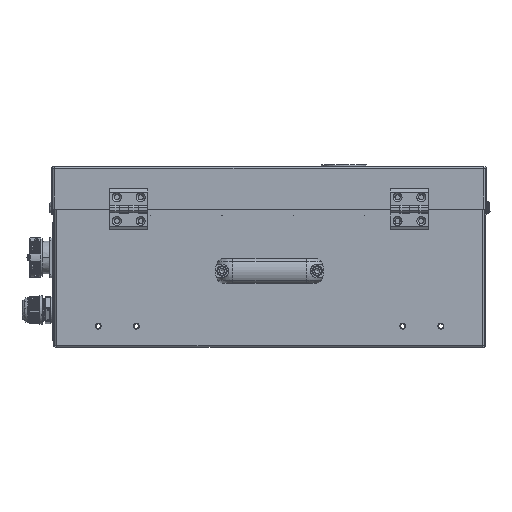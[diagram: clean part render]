
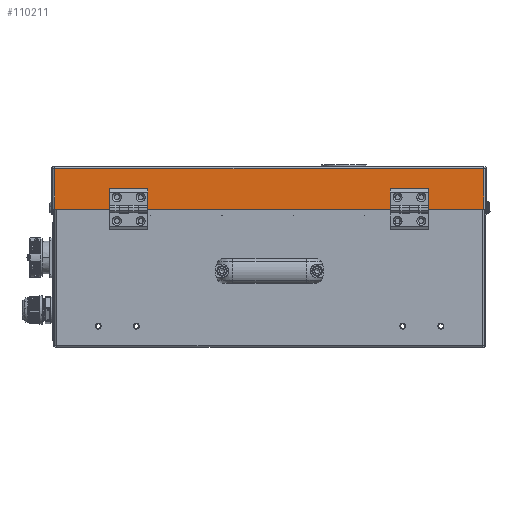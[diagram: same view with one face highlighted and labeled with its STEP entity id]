
A CAD part, front view. The second image highlights one B-rep face of the part: STEP entity #110211.
In plain terms, the highlighted planar face has unit normal (0, -1, 0) as drawn and (0, 1, 0) by its records, which use the part's own axes.
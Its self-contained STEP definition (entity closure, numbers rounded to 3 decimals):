
#1494 = CIRCLE ( 'NONE', #58247, 2.65 ) ;
#1501 = DIRECTION ( 'NONE',  ( 0., 0., -1. ) ) ;
#2211 = DIRECTION ( 'NONE',  ( 0., 0., 1. ) ) ;
#2305 = CARTESIAN_POINT ( 'NONE',  ( -135., 85., 33.15 ) ) ;
#3350 = ORIENTED_EDGE ( 'NONE', *, *, #131735, .F. ) ;
#7655 = EDGE_CURVE ( 'NONE', #125678, #28496, #146046, .T. ) ;
#7772 = EDGE_CURVE ( 'NONE', #28671, #140823, #19745, .T. ) ;
#9221 = PLANE ( 'NONE',  #85877 ) ;
#9626 = CARTESIAN_POINT ( 'NONE',  ( 160., 85., 30.5 ) ) ;
#9893 = VECTOR ( 'NONE', #61558, 1000. ) ;
#11166 = CIRCLE ( 'NONE', #65452, 2.65 ) ;
#13204 = DIRECTION ( 'NONE',  ( 0., 0., 1. ) ) ;
#14415 = CARTESIAN_POINT ( 'NONE',  ( 225.4, 85., 43. ) ) ;
#14683 = ORIENTED_EDGE ( 'NONE', *, *, #132298, .F. ) ;
#18172 = CARTESIAN_POINT ( 'NONE',  ( 225.4, 85., 43. ) ) ;
#19745 = LINE ( 'NONE', #41417, #47376 ) ;
#22292 = EDGE_CURVE ( 'NONE', #143634, #121549, #11166, .T. ) ;
#24768 = DIRECTION ( 'NONE',  ( 0., 1., 0. ) ) ;
#27368 = DIRECTION ( 'NONE',  ( 0., 1., 0. ) ) ;
#28496 = VERTEX_POINT ( 'NONE', #42690 ) ;
#28671 = VERTEX_POINT ( 'NONE', #98903 ) ;
#30067 = LINE ( 'NONE', #148256, #43205 ) ;
#30552 = CARTESIAN_POINT ( 'NONE',  ( -135., 85., 30.5 ) ) ;
#31450 = EDGE_LOOP ( 'NONE', ( #70566, #14683 ) ) ;
#34674 = LINE ( 'NONE', #117325, #67298 ) ;
#35034 = AXIS2_PLACEMENT_3D ( 'NONE', #30552, #147971, #54493 ) ;
#36060 = DIRECTION ( 'NONE',  ( 0., 0., 1. ) ) ;
#38370 = ORIENTED_EDGE ( 'NONE', *, *, #80728, .T. ) ;
#38982 = CARTESIAN_POINT ( 'NONE',  ( 135., 85., 30.5 ) ) ;
#41127 = ORIENTED_EDGE ( 'NONE', *, *, #104520, .F. ) ;
#41417 = CARTESIAN_POINT ( 'NONE',  ( 225.4, 85., 28.5 ) ) ;
#41953 = EDGE_LOOP ( 'NONE', ( #90824, #85386 ) ) ;
#42575 = CARTESIAN_POINT ( 'NONE',  ( -160., 85., 27.85 ) ) ;
#42690 = CARTESIAN_POINT ( 'NONE',  ( -135., 85., 27.85 ) ) ;
#43205 = VECTOR ( 'NONE', #124332, 1000. ) ;
#45457 = FACE_BOUND ( 'NONE', #132529, .T. ) ;
#47376 = VECTOR ( 'NONE', #149493, 1000. ) ;
#50480 = EDGE_CURVE ( 'NONE', #81927, #118842, #1494, .T. ) ;
#52128 = CARTESIAN_POINT ( 'NONE',  ( -225.4, 85., 0.5 ) ) ;
#54036 = FACE_BOUND ( 'NONE', #41953, .T. ) ;
#54493 = DIRECTION ( 'NONE',  ( 0., 0., 1. ) ) ;
#55895 = CARTESIAN_POINT ( 'NONE',  ( 135., 85., 33.15 ) ) ;
#56631 = CARTESIAN_POINT ( 'NONE',  ( -160., 85., 30.5 ) ) ;
#56707 = DIRECTION ( 'NONE',  ( 0., 0., 1. ) ) ;
#58247 = AXIS2_PLACEMENT_3D ( 'NONE', #56631, #141515, #116079 ) ;
#61558 = DIRECTION ( 'NONE',  ( 1., 0., 0. ) ) ;
#62302 = DIRECTION ( 'NONE',  ( 0., 0., 1. ) ) ;
#64340 = ORIENTED_EDGE ( 'NONE', *, *, #89001, .F. ) ;
#65452 = AXIS2_PLACEMENT_3D ( 'NONE', #142598, #85474, #62302 ) ;
#65723 = CARTESIAN_POINT ( 'NONE',  ( 160., 85., 33.15 ) ) ;
#67298 = VECTOR ( 'NONE', #1501, 1000. ) ;
#67399 = EDGE_LOOP ( 'NONE', ( #70298, #92568, #41127, #38370 ) ) ;
#69226 = VERTEX_POINT ( 'NONE', #99228 ) ;
#70298 = ORIENTED_EDGE ( 'NONE', *, *, #7772, .F. ) ;
#70566 = ORIENTED_EDGE ( 'NONE', *, *, #22292, .F. ) ;
#71160 = AXIS2_PLACEMENT_3D ( 'NONE', #92583, #116496, #2211 ) ;
#71790 = EDGE_CURVE ( 'NONE', #28496, #125678, #126141, .T. ) ;
#73183 = CARTESIAN_POINT ( 'NONE',  ( -160., 85., 30.5 ) ) ;
#76114 = DIRECTION ( 'NONE',  ( 0., 0., 1. ) ) ;
#78040 = FACE_BOUND ( 'NONE', #151136, .T. ) ;
#80728 = EDGE_CURVE ( 'NONE', #103729, #140823, #120948, .T. ) ;
#81927 = VERTEX_POINT ( 'NONE', #42575 ) ;
#83598 = CIRCLE ( 'NONE', #98015, 2.65 ) ;
#85386 = ORIENTED_EDGE ( 'NONE', *, *, #50480, .F. ) ;
#85474 = DIRECTION ( 'NONE',  ( 0., 1., 0. ) ) ;
#85877 = AXIS2_PLACEMENT_3D ( 'NONE', #136668, #139676, #125091 ) ;
#89001 = EDGE_CURVE ( 'NONE', #108479, #69226, #92446, .T. ) ;
#90824 = ORIENTED_EDGE ( 'NONE', *, *, #98949, .F. ) ;
#92230 = CARTESIAN_POINT ( 'NONE',  ( -225.4, 85., 43. ) ) ;
#92446 = CIRCLE ( 'NONE', #131927, 2.65 ) ;
#92568 = ORIENTED_EDGE ( 'NONE', *, *, #117747, .T. ) ;
#92583 = CARTESIAN_POINT ( 'NONE',  ( 135., 85., 30.5 ) ) ;
#98015 = AXIS2_PLACEMENT_3D ( 'NONE', #9626, #137077, #56707 ) ;
#98903 = CARTESIAN_POINT ( 'NONE',  ( 225.4, 85., 0.5 ) ) ;
#98949 = EDGE_CURVE ( 'NONE', #118842, #81927, #115274, .T. ) ;
#99228 = CARTESIAN_POINT ( 'NONE',  ( 135., 85., 27.85 ) ) ;
#103729 = VERTEX_POINT ( 'NONE', #92230 ) ;
#104520 = EDGE_CURVE ( 'NONE', #103729, #110729, #34674, .T. ) ;
#108018 = CIRCLE ( 'NONE', #71160, 2.65 ) ;
#108479 = VERTEX_POINT ( 'NONE', #55895 ) ;
#110211 = ADVANCED_FACE ( 'NONE', ( #54036, #45457, #78040, #150487, #149014 ), #9221, .T. ) ;
#110336 = AXIS2_PLACEMENT_3D ( 'NONE', #73183, #131811, #36060 ) ;
#110729 = VERTEX_POINT ( 'NONE', #52128 ) ;
#111359 = AXIS2_PLACEMENT_3D ( 'NONE', #132130, #24768, #13204 ) ;
#114104 = CARTESIAN_POINT ( 'NONE',  ( 160., 85., 27.85 ) ) ;
#115274 = CIRCLE ( 'NONE', #110336, 2.65 ) ;
#116079 = DIRECTION ( 'NONE',  ( 0., 0., 1. ) ) ;
#116496 = DIRECTION ( 'NONE',  ( 0., 1., 0. ) ) ;
#117325 = CARTESIAN_POINT ( 'NONE',  ( -225.4, 85., 0. ) ) ;
#117747 = EDGE_CURVE ( 'NONE', #28671, #110729, #30067, .T. ) ;
#118842 = VERTEX_POINT ( 'NONE', #149245 ) ;
#120948 = LINE ( 'NONE', #14415, #9893 ) ;
#121549 = VERTEX_POINT ( 'NONE', #114104 ) ;
#123935 = ORIENTED_EDGE ( 'NONE', *, *, #7655, .F. ) ;
#124332 = DIRECTION ( 'NONE',  ( -1., 0., 0. ) ) ;
#125091 = DIRECTION ( 'NONE',  ( 0., 0., 1. ) ) ;
#125678 = VERTEX_POINT ( 'NONE', #2305 ) ;
#126141 = CIRCLE ( 'NONE', #111359, 2.65 ) ;
#131735 = EDGE_CURVE ( 'NONE', #69226, #108479, #108018, .T. ) ;
#131811 = DIRECTION ( 'NONE',  ( 0., 1., 0. ) ) ;
#131927 = AXIS2_PLACEMENT_3D ( 'NONE', #38982, #27368, #76114 ) ;
#132130 = CARTESIAN_POINT ( 'NONE',  ( -135., 85., 30.5 ) ) ;
#132298 = EDGE_CURVE ( 'NONE', #121549, #143634, #83598, .T. ) ;
#132529 = EDGE_LOOP ( 'NONE', ( #123935, #141113 ) ) ;
#136668 = CARTESIAN_POINT ( 'NONE',  ( 0., 85., 0. ) ) ;
#137077 = DIRECTION ( 'NONE',  ( 0., 1., 0. ) ) ;
#139676 = DIRECTION ( 'NONE',  ( 0., 1., 0. ) ) ;
#140823 = VERTEX_POINT ( 'NONE', #18172 ) ;
#141113 = ORIENTED_EDGE ( 'NONE', *, *, #71790, .F. ) ;
#141515 = DIRECTION ( 'NONE',  ( 0., 1., 0. ) ) ;
#142598 = CARTESIAN_POINT ( 'NONE',  ( 160., 85., 30.5 ) ) ;
#143634 = VERTEX_POINT ( 'NONE', #65723 ) ;
#146046 = CIRCLE ( 'NONE', #35034, 2.65 ) ;
#147971 = DIRECTION ( 'NONE',  ( 0., 1., 0. ) ) ;
#148256 = CARTESIAN_POINT ( 'NONE',  ( 0., 85., 0.5 ) ) ;
#149014 = FACE_OUTER_BOUND ( 'NONE', #67399, .T. ) ;
#149245 = CARTESIAN_POINT ( 'NONE',  ( -160., 85., 33.15 ) ) ;
#149493 = DIRECTION ( 'NONE',  ( 0., 0., 1. ) ) ;
#150487 = FACE_BOUND ( 'NONE', #31450, .T. ) ;
#151136 = EDGE_LOOP ( 'NONE', ( #64340, #3350 ) ) ;
